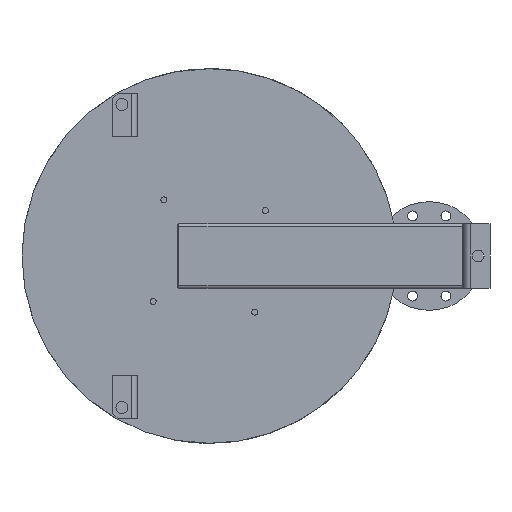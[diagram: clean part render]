
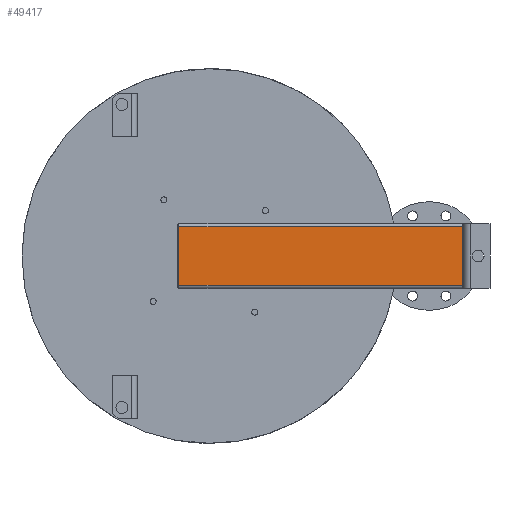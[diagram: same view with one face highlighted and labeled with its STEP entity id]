
A CAD part, front view. The second image highlights one B-rep face of the part: STEP entity #49417.
In plain terms, the highlighted planar face has unit normal (0, -1, 0).
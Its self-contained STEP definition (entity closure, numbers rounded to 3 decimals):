
#219 = EDGE_CURVE ( 'NONE', #44857, #96449, #85902, .T. ) ;
#2083 = CARTESIAN_POINT ( 'NONE',  ( 468.388, -60., 60. ) ) ;
#2776 = CARTESIAN_POINT ( 'NONE',  ( 468.388, -60., -54. ) ) ;
#4312 = VERTEX_POINT ( 'NONE', #2776 ) ;
#6247 = DIRECTION ( 'NONE',  ( 1., 0., 0. ) ) ;
#8068 = CARTESIAN_POINT ( 'NONE',  ( 468.388, -60., 60. ) ) ;
#12911 = EDGE_CURVE ( 'NONE', #4312, #44857, #50336, .T. ) ;
#13474 = ORIENTED_EDGE ( 'NONE', *, *, #44942, .T. ) ;
#15324 = EDGE_LOOP ( 'NONE', ( #89611, #76425, #35289, #13474 ) ) ;
#15846 = DIRECTION ( 'NONE',  ( 0., 0., 1. ) ) ;
#21498 = CARTESIAN_POINT ( 'NONE',  ( 468.388, -60., 54. ) ) ;
#28570 = DIRECTION ( 'NONE',  ( 0., 0., 1. ) ) ;
#31640 = VECTOR ( 'NONE', #6247, 1000. ) ;
#35289 = ORIENTED_EDGE ( 'NONE', *, *, #86874, .F. ) ;
#35873 = CARTESIAN_POINT ( 'NONE',  ( -54.612, -60., 60. ) ) ;
#44857 = VERTEX_POINT ( 'NONE', #67076 ) ;
#44942 = EDGE_CURVE ( 'NONE', #54768, #4312, #72872, .T. ) ;
#45603 = DIRECTION ( 'NONE',  ( -1., 0., 0. ) ) ;
#47083 = VECTOR ( 'NONE', #45603, 1000. ) ;
#48452 = AXIS2_PLACEMENT_3D ( 'NONE', #8068, #62452, #15846 ) ;
#49417 = ADVANCED_FACE ( 'NONE', ( #98040 ), #77663, .T. ) ;
#50336 = LINE ( 'NONE', #2083, #94016 ) ;
#53092 = CARTESIAN_POINT ( 'NONE',  ( 468.388, -60., -54. ) ) ;
#54768 = VERTEX_POINT ( 'NONE', #82099 ) ;
#60220 = LINE ( 'NONE', #35873, #99044 ) ;
#62452 = DIRECTION ( 'NONE',  ( 0., -1., 0. ) ) ;
#67076 = CARTESIAN_POINT ( 'NONE',  ( 468.388, -60., 54. ) ) ;
#72872 = LINE ( 'NONE', #53092, #31640 ) ;
#76425 = ORIENTED_EDGE ( 'NONE', *, *, #219, .T. ) ;
#77663 = PLANE ( 'NONE',  #48452 ) ;
#82099 = CARTESIAN_POINT ( 'NONE',  ( -54.612, -60., -54. ) ) ;
#85845 = CARTESIAN_POINT ( 'NONE',  ( -54.612, -60., 54. ) ) ;
#85902 = LINE ( 'NONE', #21498, #47083 ) ;
#86874 = EDGE_CURVE ( 'NONE', #54768, #96449, #60220, .T. ) ;
#89611 = ORIENTED_EDGE ( 'NONE', *, *, #12911, .T. ) ;
#94016 = VECTOR ( 'NONE', #28570, 1000. ) ;
#96449 = VERTEX_POINT ( 'NONE', #85845 ) ;
#97913 = DIRECTION ( 'NONE',  ( 0., 0., 1. ) ) ;
#98040 = FACE_OUTER_BOUND ( 'NONE', #15324, .T. ) ;
#99044 = VECTOR ( 'NONE', #97913, 1000. ) ;
